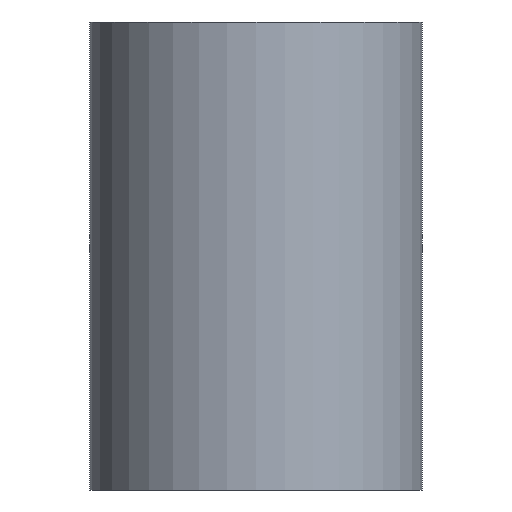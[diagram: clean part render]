
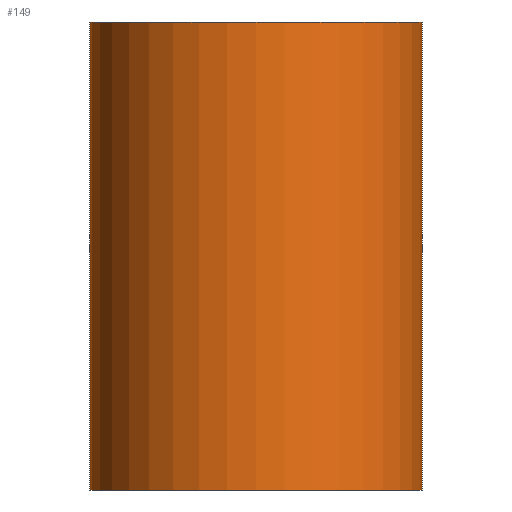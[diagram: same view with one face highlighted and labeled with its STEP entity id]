
A CAD part, front view. The second image highlights one B-rep face of the part: STEP entity #149.
In plain terms, the highlighted cylindrical face has radius 16 mm (diameter 32 mm), a full revolution.
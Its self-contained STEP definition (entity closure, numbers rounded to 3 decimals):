
#28=LINE('',#337,#32);
#32=VECTOR('',#293,16.);
#36=CYLINDRICAL_SURFACE('',#240,16.);
#47=FACE_OUTER_BOUND('',#58,.T.);
#58=EDGE_LOOP('',(#124,#125,#126,#127,#128,#129));
#67=CIRCLE('',#235,16.);
#68=CIRCLE('',#236,16.);
#71=CIRCLE('',#241,16.);
#72=CIRCLE('',#242,16.);
#79=VERTEX_POINT('',#322);
#80=VERTEX_POINT('',#323);
#83=VERTEX_POINT('',#333);
#84=VERTEX_POINT('',#334);
#93=EDGE_CURVE('',#79,#80,#67,.T.);
#94=EDGE_CURVE('',#80,#79,#68,.T.);
#98=EDGE_CURVE('',#83,#84,#71,.T.);
#99=EDGE_CURVE('',#84,#83,#72,.T.);
#100=EDGE_CURVE('',#84,#80,#28,.T.);
#124=ORIENTED_EDGE('',*,*,#98,.F.);
#125=ORIENTED_EDGE('',*,*,#99,.F.);
#126=ORIENTED_EDGE('',*,*,#100,.T.);
#127=ORIENTED_EDGE('',*,*,#93,.F.);
#128=ORIENTED_EDGE('',*,*,#94,.F.);
#129=ORIENTED_EDGE('',*,*,#100,.F.);
#149=ADVANCED_FACE('',(#47),#36,.T.);
#235=AXIS2_PLACEMENT_3D('',#324,#276,#277);
#236=AXIS2_PLACEMENT_3D('',#325,#278,#279);
#240=AXIS2_PLACEMENT_3D('',#332,#287,#288);
#241=AXIS2_PLACEMENT_3D('',#335,#289,#290);
#242=AXIS2_PLACEMENT_3D('',#336,#291,#292);
#276=DIRECTION('center_axis',(0.,0.,-1.));
#277=DIRECTION('ref_axis',(1.,0.,0.));
#278=DIRECTION('center_axis',(0.,0.,-1.));
#279=DIRECTION('ref_axis',(1.,0.,0.));
#287=DIRECTION('center_axis',(0.,0.,1.));
#288=DIRECTION('ref_axis',(1.,0.,0.));
#289=DIRECTION('center_axis',(0.,0.,1.));
#290=DIRECTION('ref_axis',(1.,0.,0.));
#291=DIRECTION('center_axis',(0.,0.,1.));
#292=DIRECTION('ref_axis',(1.,0.,0.));
#293=DIRECTION('',(0.,0.,-1.));
#322=CARTESIAN_POINT('',(16.,0.,-22.5));
#323=CARTESIAN_POINT('',(-16.,0.,-22.5));
#324=CARTESIAN_POINT('Origin',(0.,0.,-22.5));
#325=CARTESIAN_POINT('Origin',(0.,0.,-22.5));
#332=CARTESIAN_POINT('Origin',(0.,0.,0.));
#333=CARTESIAN_POINT('',(16.,0.,22.5));
#334=CARTESIAN_POINT('',(-16.,0.,22.5));
#335=CARTESIAN_POINT('Origin',(0.,0.,22.5));
#336=CARTESIAN_POINT('Origin',(0.,0.,22.5));
#337=CARTESIAN_POINT('',(-16.,0.,0.));
